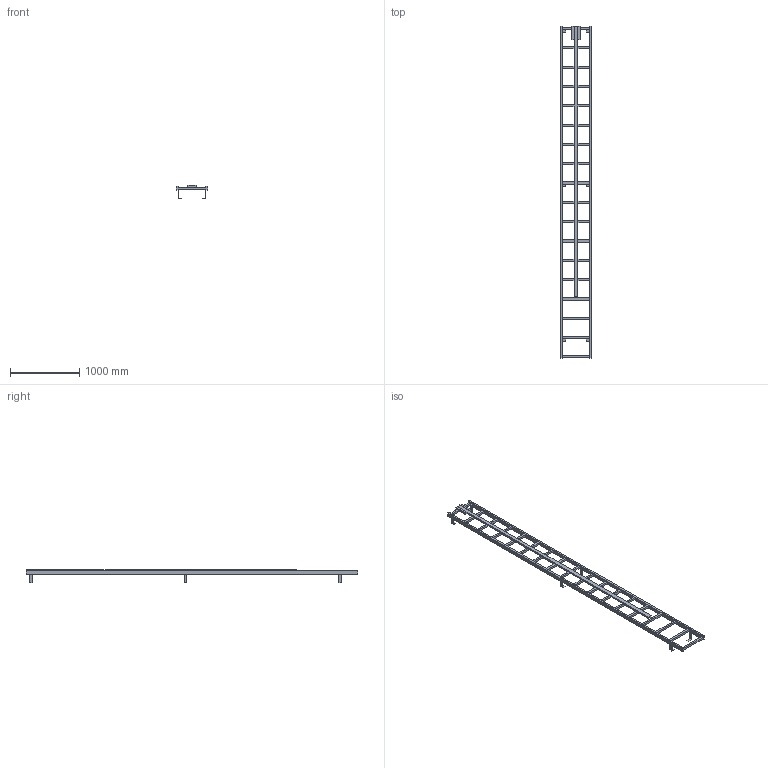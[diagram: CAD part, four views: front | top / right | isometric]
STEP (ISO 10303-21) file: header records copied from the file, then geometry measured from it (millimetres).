
FILE_DESCRIPTION((''),'2;1');
FILE_NAME('017_000109','2017-06-19T',('set'),('HUBER SE'),'PRO/ENGINEER BY PARAMETRIC TECHNOLOGY CORPORATION, 2015280','PRO/ENGINEER BY PARAMETRIC TECHNOLOGY CORPORATION, 2015280','');
FILE_SCHEMA(('CONFIG_CONTROL_DESIGN'));
Length unit declared in the file: millimetre
Products named in the file (1): 017_000109
Bounding box: 450 x 4810 x 195 mm (x, y, z)
Volume: 25914420 mm3; surface area: 3115860 mm2
Topology: 1 solids, 1 shells, 172 faces, 631 edges, 429 vertices
Faces by surface type: plane 172
Entity records: 6540 total; most frequent: CARTESIAN_POINT 1291, ORIENTED_EDGE 1060, DIRECTION 966, VECTOR 584, LINE 584, EDGE_CURVE 530, VERTEX_POINT 328, EDGE_LOOP 200
